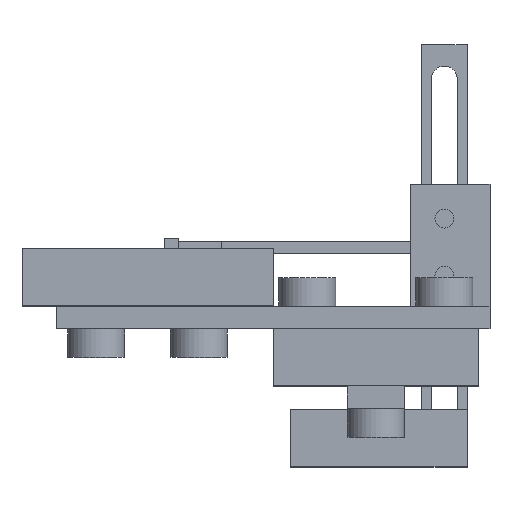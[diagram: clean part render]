
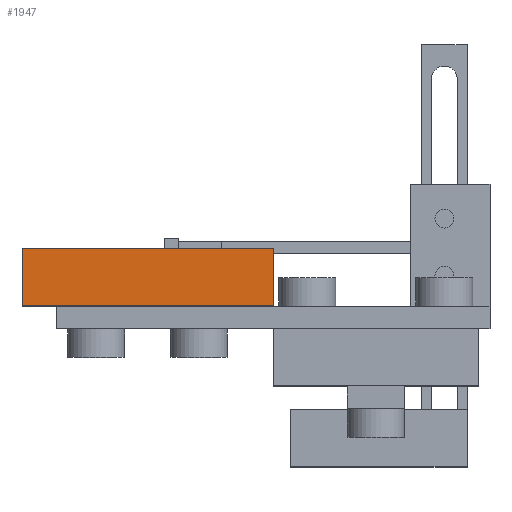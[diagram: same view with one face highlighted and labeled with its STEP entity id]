
A CAD part, top view. The second image highlights one B-rep face of the part: STEP entity #1947.
In plain terms, the highlighted planar face has unit normal (0, 0, 1).
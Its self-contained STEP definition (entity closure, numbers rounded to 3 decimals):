
#102 = VERTEX_POINT('',#103);
#103 = CARTESIAN_POINT('',(-22.,0.,136.));
#110 = PLANE('',#111);
#111 = AXIS2_PLACEMENT_3D('',#112,#113,#114);
#112 = CARTESIAN_POINT('',(-22.,-10.,104.));
#113 = DIRECTION('',(1.,0.,0.));
#114 = DIRECTION('',(0.,0.,1.));
#122 = PLANE('',#123);
#123 = AXIS2_PLACEMENT_3D('',#124,#125,#126);
#124 = CARTESIAN_POINT('',(-22.,0.,104.));
#125 = DIRECTION('',(0.,1.,0.));
#126 = DIRECTION('',(0.,0.,1.));
#134 = EDGE_CURVE('',#135,#102,#137,.T.);
#135 = VERTEX_POINT('',#136);
#136 = CARTESIAN_POINT('',(-22.,-10.,136.));
#137 = SURFACE_CURVE('',#138,(#142,#149),.PCURVE_S1.);
#138 = LINE('',#139,#140);
#139 = CARTESIAN_POINT('',(-22.,-10.,136.));
#140 = VECTOR('',#141,1.);
#141 = DIRECTION('',(0.,1.,0.));
#142 = PCURVE('',#110,#143);
#143 = DEFINITIONAL_REPRESENTATION('',(#144),#148);
#144 = LINE('',#145,#146);
#145 = CARTESIAN_POINT('',(32.,0.));
#146 = VECTOR('',#147,1.);
#147 = DIRECTION('',(0.,-1.));
#148 = ( GEOMETRIC_REPRESENTATION_CONTEXT(2)
PARAMETRIC_REPRESENTATION_CONTEXT() REPRESENTATION_CONTEXT('2D SPACE',''
  ) );
#149 = PCURVE('',#150,#155);
#150 = PLANE('',#151);
#151 = AXIS2_PLACEMENT_3D('',#152,#153,#154);
#152 = CARTESIAN_POINT('',(-22.,-10.,136.));
#153 = DIRECTION('',(0.,0.,1.));
#154 = DIRECTION('',(1.,0.,0.));
#155 = DEFINITIONAL_REPRESENTATION('',(#156),#160);
#156 = LINE('',#157,#158);
#157 = CARTESIAN_POINT('',(0.,0.));
#158 = VECTOR('',#159,1.);
#159 = DIRECTION('',(0.,1.));
#160 = ( GEOMETRIC_REPRESENTATION_CONTEXT(2)
PARAMETRIC_REPRESENTATION_CONTEXT() REPRESENTATION_CONTEXT('2D SPACE',''
  ) );
#178 = PLANE('',#179);
#179 = AXIS2_PLACEMENT_3D('',#180,#181,#182);
#180 = CARTESIAN_POINT('',(-22.,-10.,104.));
#181 = DIRECTION('',(0.,1.,0.));
#182 = DIRECTION('',(0.,0.,1.));
#451 = PLANE('',#452);
#452 = AXIS2_PLACEMENT_3D('',#453,#454,#455);
#453 = CARTESIAN_POINT('',(22.,-10.,104.));
#454 = DIRECTION('',(1.,0.,0.));
#455 = DIRECTION('',(0.,0.,1.));
#631 = EDGE_CURVE('',#102,#632,#634,.T.);
#632 = VERTEX_POINT('',#633);
#633 = CARTESIAN_POINT('',(22.,0.,136.));
#634 = SURFACE_CURVE('',#635,(#639,#646),.PCURVE_S1.);
#635 = LINE('',#636,#637);
#636 = CARTESIAN_POINT('',(-22.,0.,136.));
#637 = VECTOR('',#638,1.);
#638 = DIRECTION('',(1.,0.,0.));
#639 = PCURVE('',#122,#640);
#640 = DEFINITIONAL_REPRESENTATION('',(#641),#645);
#641 = LINE('',#642,#643);
#642 = CARTESIAN_POINT('',(32.,0.));
#643 = VECTOR('',#644,1.);
#644 = DIRECTION('',(0.,1.));
#645 = ( GEOMETRIC_REPRESENTATION_CONTEXT(2)
PARAMETRIC_REPRESENTATION_CONTEXT() REPRESENTATION_CONTEXT('2D SPACE',''
  ) );
#646 = PCURVE('',#150,#647);
#647 = DEFINITIONAL_REPRESENTATION('',(#648),#652);
#648 = LINE('',#649,#650);
#649 = CARTESIAN_POINT('',(0.,10.));
#650 = VECTOR('',#651,1.);
#651 = DIRECTION('',(1.,0.));
#652 = ( GEOMETRIC_REPRESENTATION_CONTEXT(2)
PARAMETRIC_REPRESENTATION_CONTEXT() REPRESENTATION_CONTEXT('2D SPACE',''
  ) );
#1446 = EDGE_CURVE('',#135,#1447,#1449,.T.);
#1447 = VERTEX_POINT('',#1448);
#1448 = CARTESIAN_POINT('',(22.,-10.,136.));
#1449 = SURFACE_CURVE('',#1450,(#1454,#1461),.PCURVE_S1.);
#1450 = LINE('',#1451,#1452);
#1451 = CARTESIAN_POINT('',(-22.,-10.,136.));
#1452 = VECTOR('',#1453,1.);
#1453 = DIRECTION('',(1.,0.,0.));
#1454 = PCURVE('',#178,#1455);
#1455 = DEFINITIONAL_REPRESENTATION('',(#1456),#1460);
#1456 = LINE('',#1457,#1458);
#1457 = CARTESIAN_POINT('',(32.,0.));
#1458 = VECTOR('',#1459,1.);
#1459 = DIRECTION('',(0.,1.));
#1460 = ( GEOMETRIC_REPRESENTATION_CONTEXT(2)
PARAMETRIC_REPRESENTATION_CONTEXT() REPRESENTATION_CONTEXT('2D SPACE',''
  ) );
#1461 = PCURVE('',#150,#1462);
#1462 = DEFINITIONAL_REPRESENTATION('',(#1463),#1467);
#1463 = LINE('',#1464,#1465);
#1464 = CARTESIAN_POINT('',(0.,0.));
#1465 = VECTOR('',#1466,1.);
#1466 = DIRECTION('',(1.,0.));
#1467 = ( GEOMETRIC_REPRESENTATION_CONTEXT(2)
PARAMETRIC_REPRESENTATION_CONTEXT() REPRESENTATION_CONTEXT('2D SPACE',''
  ) );
#1947 = ADVANCED_FACE('',(#1948),#150,.T.);
#1948 = FACE_BOUND('',#1949,.T.);
#1949 = EDGE_LOOP('',(#1950,#1951,#1952,#1973));
#1950 = ORIENTED_EDGE('',*,*,#134,.F.);
#1951 = ORIENTED_EDGE('',*,*,#1446,.T.);
#1952 = ORIENTED_EDGE('',*,*,#1953,.T.);
#1953 = EDGE_CURVE('',#1447,#632,#1954,.T.);
#1954 = SURFACE_CURVE('',#1955,(#1959,#1966),.PCURVE_S1.);
#1955 = LINE('',#1956,#1957);
#1956 = CARTESIAN_POINT('',(22.,-10.,136.));
#1957 = VECTOR('',#1958,1.);
#1958 = DIRECTION('',(0.,1.,0.));
#1959 = PCURVE('',#150,#1960);
#1960 = DEFINITIONAL_REPRESENTATION('',(#1961),#1965);
#1961 = LINE('',#1962,#1963);
#1962 = CARTESIAN_POINT('',(44.,0.));
#1963 = VECTOR('',#1964,1.);
#1964 = DIRECTION('',(0.,1.));
#1965 = ( GEOMETRIC_REPRESENTATION_CONTEXT(2)
PARAMETRIC_REPRESENTATION_CONTEXT() REPRESENTATION_CONTEXT('2D SPACE',''
  ) );
#1966 = PCURVE('',#451,#1967);
#1967 = DEFINITIONAL_REPRESENTATION('',(#1968),#1972);
#1968 = LINE('',#1969,#1970);
#1969 = CARTESIAN_POINT('',(32.,0.));
#1970 = VECTOR('',#1971,1.);
#1971 = DIRECTION('',(0.,-1.));
#1972 = ( GEOMETRIC_REPRESENTATION_CONTEXT(2)
PARAMETRIC_REPRESENTATION_CONTEXT() REPRESENTATION_CONTEXT('2D SPACE',''
  ) );
#1973 = ORIENTED_EDGE('',*,*,#631,.F.);
